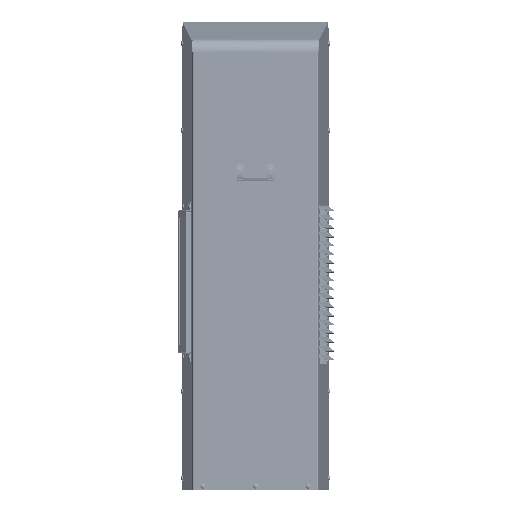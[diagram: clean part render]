
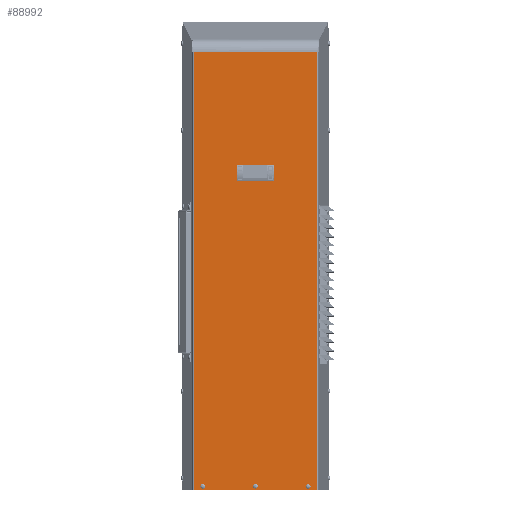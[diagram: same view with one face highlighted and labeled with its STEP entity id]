
A CAD part, front view. The second image highlights one B-rep face of the part: STEP entity #88992.
In plain terms, the highlighted planar face has unit normal (0, -1, 0) as drawn and (0, 1, 0) by its records, which use the part's own axes.
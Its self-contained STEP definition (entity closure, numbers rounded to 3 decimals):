
#5477=LINE('',#148027,#13599);
#5497=LINE('',#148064,#13619);
#5501=LINE('',#148072,#13623);
#5504=LINE('',#148078,#13626);
#5506=LINE('',#148081,#13628);
#5521=LINE('',#148112,#13643);
#5526=LINE('',#148126,#13648);
#5529=LINE('',#148136,#13651);
#5534=LINE('',#148150,#13656);
#5537=LINE('',#148160,#13659);
#5542=LINE('',#148174,#13664);
#5650=LINE('',#148492,#13772);
#5652=LINE('',#148498,#13774);
#5653=LINE('',#148500,#13775);
#13599=VECTOR('',#120481,1000.);
#13619=VECTOR('',#120517,1000.);
#13623=VECTOR('',#120523,1000.);
#13626=VECTOR('',#120528,1000.);
#13628=VECTOR('',#120532,1000.);
#13643=VECTOR('',#120557,1000.);
#13648=VECTOR('',#120570,1000.);
#13651=VECTOR('',#120581,1000.);
#13656=VECTOR('',#120594,1000.);
#13659=VECTOR('',#120605,1000.);
#13664=VECTOR('',#120618,1000.);
#13772=VECTOR('',#120938,1000.);
#13774=VECTOR('',#120944,1000.);
#13775=VECTOR('',#120945,1000.);
#19950=PLANE('',#106927);
#29644=ORIENTED_EDGE('',*,*,#51169,.T.);
#29645=ORIENTED_EDGE('',*,*,#50929,.F.);
#29646=ORIENTED_EDGE('',*,*,#51166,.F.);
#29647=ORIENTED_EDGE('',*,*,#51170,.F.);
#29648=ORIENTED_EDGE('',*,*,#51006,.F.);
#29649=ORIENTED_EDGE('',*,*,#51008,.F.);
#29650=ORIENTED_EDGE('',*,*,#50999,.F.);
#29651=ORIENTED_EDGE('',*,*,#51003,.F.);
#29652=ORIENTED_EDGE('',*,*,#50994,.F.);
#29653=ORIENTED_EDGE('',*,*,#50996,.F.);
#29654=ORIENTED_EDGE('',*,*,#50987,.F.);
#29655=ORIENTED_EDGE('',*,*,#50991,.F.);
#29656=ORIENTED_EDGE('',*,*,#50982,.F.);
#29657=ORIENTED_EDGE('',*,*,#50984,.F.);
#29658=ORIENTED_EDGE('',*,*,#50975,.F.);
#29659=ORIENTED_EDGE('',*,*,#50979,.F.);
#29660=ORIENTED_EDGE('',*,*,#50958,.F.);
#29661=ORIENTED_EDGE('',*,*,#50960,.F.);
#29662=ORIENTED_EDGE('',*,*,#50951,.F.);
#29663=ORIENTED_EDGE('',*,*,#50955,.F.);
#50929=EDGE_CURVE('',#62224,#62215,#5477,.T.);
#50951=EDGE_CURVE('',#62244,#62245,#5497,.T.);
#50955=EDGE_CURVE('',#62247,#62244,#5501,.T.);
#50958=EDGE_CURVE('',#62249,#62247,#5504,.T.);
#50960=EDGE_CURVE('',#62245,#62249,#5506,.T.);
#50975=EDGE_CURVE('',#62260,#62261,#5521,.T.);
#50979=EDGE_CURVE('',#62263,#62260,#69197,.T.);
#50982=EDGE_CURVE('',#62265,#62263,#5526,.T.);
#50984=EDGE_CURVE('',#62261,#62265,#69199,.T.);
#50987=EDGE_CURVE('',#62268,#62269,#5529,.T.);
#50991=EDGE_CURVE('',#62271,#62268,#69201,.T.);
#50994=EDGE_CURVE('',#62273,#62271,#5534,.T.);
#50996=EDGE_CURVE('',#62269,#62273,#69203,.T.);
#50999=EDGE_CURVE('',#62276,#62277,#5537,.T.);
#51003=EDGE_CURVE('',#62279,#62276,#69205,.T.);
#51006=EDGE_CURVE('',#62281,#62279,#5542,.T.);
#51008=EDGE_CURVE('',#62277,#62281,#69207,.T.);
#51166=EDGE_CURVE('',#62386,#62224,#5650,.T.);
#51169=EDGE_CURVE('',#62388,#62215,#5652,.T.);
#51170=EDGE_CURVE('',#62388,#62386,#5653,.T.);
#62215=VERTEX_POINT('',#147960);
#62224=VERTEX_POINT('',#147984);
#62244=VERTEX_POINT('',#148063);
#62245=VERTEX_POINT('',#148065);
#62247=VERTEX_POINT('',#148071);
#62249=VERTEX_POINT('',#148077);
#62260=VERTEX_POINT('',#148111);
#62261=VERTEX_POINT('',#148113);
#62263=VERTEX_POINT('',#148119);
#62265=VERTEX_POINT('',#148125);
#62268=VERTEX_POINT('',#148135);
#62269=VERTEX_POINT('',#148137);
#62271=VERTEX_POINT('',#148143);
#62273=VERTEX_POINT('',#148149);
#62276=VERTEX_POINT('',#148159);
#62277=VERTEX_POINT('',#148161);
#62279=VERTEX_POINT('',#148167);
#62281=VERTEX_POINT('',#148173);
#62386=VERTEX_POINT('',#148493);
#62388=VERTEX_POINT('',#148499);
#69197=CIRCLE('',#106802,2.54);
#69199=CIRCLE('',#106806,2.54);
#69201=CIRCLE('',#106810,2.54);
#69203=CIRCLE('',#106814,2.54);
#69205=CIRCLE('',#106818,2.54);
#69207=CIRCLE('',#106822,2.54);
#73701=EDGE_LOOP('',(#29644,#29645,#29646,#29647));
#73702=EDGE_LOOP('',(#29648,#29649,#29650,#29651));
#73703=EDGE_LOOP('',(#29652,#29653,#29654,#29655));
#73704=EDGE_LOOP('',(#29656,#29657,#29658,#29659));
#73705=EDGE_LOOP('',(#29660,#29661,#29662,#29663));
#80897=FACE_BOUND('',#73701,.T.);
#80898=FACE_BOUND('',#73702,.T.);
#80899=FACE_BOUND('',#73703,.T.);
#80900=FACE_BOUND('',#73704,.T.);
#80901=FACE_BOUND('',#73705,.T.);
#88992=ADVANCED_FACE('',(#80897,#80898,#80899,#80900,#80901),#19950,.F.);
#106802=AXIS2_PLACEMENT_3D('',#148120,#120564,#120565);
#106806=AXIS2_PLACEMENT_3D('',#148129,#120575,#120576);
#106810=AXIS2_PLACEMENT_3D('',#148144,#120588,#120589);
#106814=AXIS2_PLACEMENT_3D('',#148153,#120599,#120600);
#106818=AXIS2_PLACEMENT_3D('',#148168,#120612,#120613);
#106822=AXIS2_PLACEMENT_3D('',#148177,#120623,#120624);
#106927=AXIS2_PLACEMENT_3D('',#148497,#120942,#120943);
#120481=DIRECTION('',(-1.,0.,0.));
#120517=DIRECTION('',(1.,0.,0.));
#120523=DIRECTION('',(0.,0.,1.));
#120528=DIRECTION('',(-1.,0.,0.));
#120532=DIRECTION('',(0.,0.,-1.));
#120557=DIRECTION('',(0.,0.,1.));
#120564=DIRECTION('',(0.,1.,0.));
#120565=DIRECTION('',(1.,0.,0.));
#120570=DIRECTION('',(0.,0.,-1.));
#120575=DIRECTION('',(0.,1.,0.));
#120576=DIRECTION('',(-1.,0.,0.));
#120581=DIRECTION('',(0.,0.,1.));
#120588=DIRECTION('',(0.,1.,0.));
#120589=DIRECTION('',(1.,0.,0.));
#120594=DIRECTION('',(0.,0.,-1.));
#120599=DIRECTION('',(0.,1.,0.));
#120600=DIRECTION('',(-1.,0.,0.));
#120605=DIRECTION('',(0.,0.,1.));
#120612=DIRECTION('',(0.,1.,0.));
#120613=DIRECTION('',(1.,0.,0.));
#120618=DIRECTION('',(0.,0.,-1.));
#120623=DIRECTION('',(0.,1.,0.));
#120624=DIRECTION('',(-1.,0.,0.));
#120938=DIRECTION('',(0.,0.,1.));
#120942=DIRECTION('',(0.,-1.,0.));
#120943=DIRECTION('',(1.,0.,0.));
#120944=DIRECTION('',(0.,0.,1.));
#120945=DIRECTION('',(1.,0.,0.));
#147960=CARTESIAN_POINT('',(-126.104,240.208,895.02));
#147984=CARTESIAN_POINT('',(126.104,240.208,895.02));
#148027=CARTESIAN_POINT('',(-128.803,240.208,895.02));
#148063=CARTESIAN_POINT('',(-35.509,240.208,663.778));
#148064=CARTESIAN_POINT('',(-35.509,240.208,663.778));
#148065=CARTESIAN_POINT('',(35.484,240.208,663.778));
#148071=CARTESIAN_POINT('',(-35.509,240.208,634.009));
#148072=CARTESIAN_POINT('',(-35.509,240.208,634.009));
#148077=CARTESIAN_POINT('',(35.484,240.208,634.009));
#148078=CARTESIAN_POINT('',(35.484,240.208,634.009));
#148081=CARTESIAN_POINT('',(35.484,240.208,663.778));
#148111=CARTESIAN_POINT('',(-110.497,240.208,6.096));
#148112=CARTESIAN_POINT('',(-110.497,240.208,6.096));
#148113=CARTESIAN_POINT('',(-110.497,240.208,8.636));
#148119=CARTESIAN_POINT('',(-105.417,240.208,6.096));
#148120=CARTESIAN_POINT('',(-107.957,240.208,6.096));
#148125=CARTESIAN_POINT('',(-105.417,240.208,8.636));
#148126=CARTESIAN_POINT('',(-105.417,240.208,8.636));
#148129=CARTESIAN_POINT('',(-107.957,240.208,8.636));
#148135=CARTESIAN_POINT('',(-2.54,240.208,6.096));
#148136=CARTESIAN_POINT('',(-2.54,240.208,6.096));
#148137=CARTESIAN_POINT('',(-2.54,240.208,8.636));
#148143=CARTESIAN_POINT('',(2.54,240.208,6.096));
#148144=CARTESIAN_POINT('',(0.,240.208,6.096));
#148149=CARTESIAN_POINT('',(2.54,240.208,8.636));
#148150=CARTESIAN_POINT('',(2.54,240.208,8.636));
#148153=CARTESIAN_POINT('',(0.,240.208,8.636));
#148159=CARTESIAN_POINT('',(105.403,240.208,6.096));
#148160=CARTESIAN_POINT('',(105.403,240.208,6.096));
#148161=CARTESIAN_POINT('',(105.403,240.208,8.636));
#148167=CARTESIAN_POINT('',(110.483,240.208,6.096));
#148168=CARTESIAN_POINT('',(107.943,240.208,6.096));
#148173=CARTESIAN_POINT('',(110.483,240.208,8.636));
#148174=CARTESIAN_POINT('',(110.483,240.208,8.636));
#148177=CARTESIAN_POINT('',(107.943,240.208,8.636));
#148492=CARTESIAN_POINT('',(126.104,240.208,0.));
#148493=CARTESIAN_POINT('',(126.104,240.208,0.));
#148497=CARTESIAN_POINT('',(-128.803,240.208,0.));
#148498=CARTESIAN_POINT('',(-126.104,240.208,0.));
#148499=CARTESIAN_POINT('',(-126.104,240.208,0.));
#148500=CARTESIAN_POINT('',(-128.803,240.208,0.));
